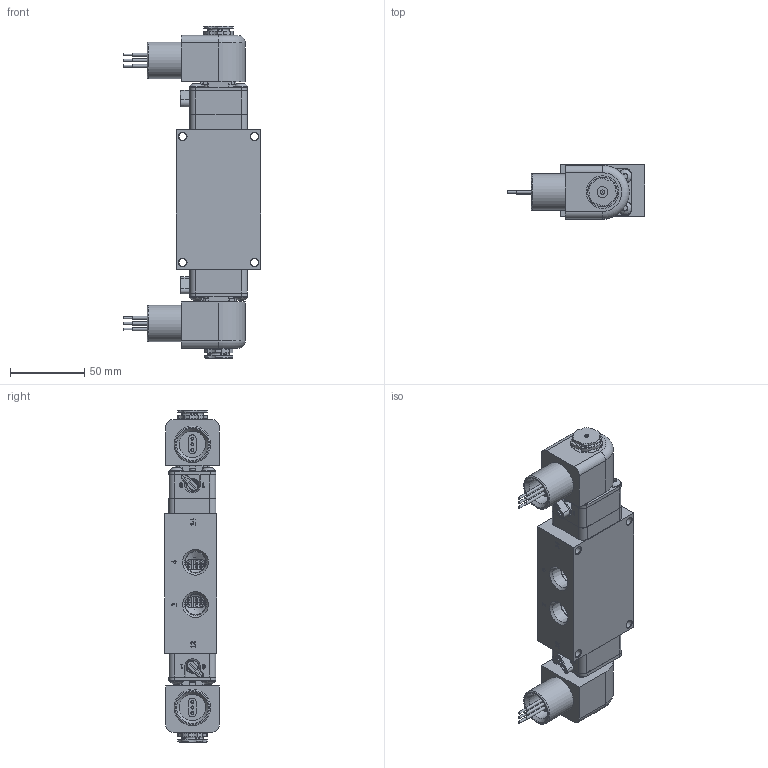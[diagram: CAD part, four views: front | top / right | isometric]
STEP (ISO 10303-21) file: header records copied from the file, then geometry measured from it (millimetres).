
FILE_DESCRIPTION(/* description */ (''),/* implementation_level */ '2;1');
FILE_NAME(/* name */ 'D:\Website Files\stp\Valves\Standard\ESY\ZESY3XOC.stp',/* time_stamp */ '2018-09-25T16:07:27-04:00',/* author */ ('RMcKenna'),/* organization */ (''),/* preprocessor_version */ 'ST-DEVELOPER v17',/* originating_system */ 'Autodesk Inventor 2018',/* authorisation */ '');
FILE_SCHEMA (('AUTOMOTIVE_DESIGN { 1 0 10303 214 3 1 1 }'));
Products named in the file (1): Part31
Bounding box: 92.94 x 36.57 x 223.79 mm (x, y, z)
Volume: 300143.2 mm3; surface area: 98764.2 mm2
Topology: 2 solids, 20 shells, 2142 faces, 5509 edges, 3585 vertices
Faces by surface type: plane 979, cylinder 632, cone 278, torus 149, bspline 96, sphere 8
Full cylindrical faces by diameter (mm): 1.168 x20, 1.3 x2, 1.397 x2, 1.5 x2, 1.524 x6, 2.032 x22, 2.35 x8, 2.388 x1, 2.5 x2, 2.8 x2, 3 x8, 3.048 x1, 3.175 x2, 3.4 x2, 3.683 x11, 4.191 x4, 4.394 x1, 4.826 x8, 5.105 x4, 5.15 x8, 5.156 x16, 5.5 x2, 6.65 x2, 7.29 x2, 7.9 x2, 8 x4, 8.433 x2, 8.6 x4, 9.144 x4, 9.169 x8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
Entity records: 73523 total; most frequent: CARTESIAN_POINT 18441, DIRECTION 11117, ORIENTED_EDGE 10996, EDGE_CURVE 5498, AXIS2_PLACEMENT_3D 4205, VERTEX_POINT 3585, LINE 2707, VECTOR 2707
